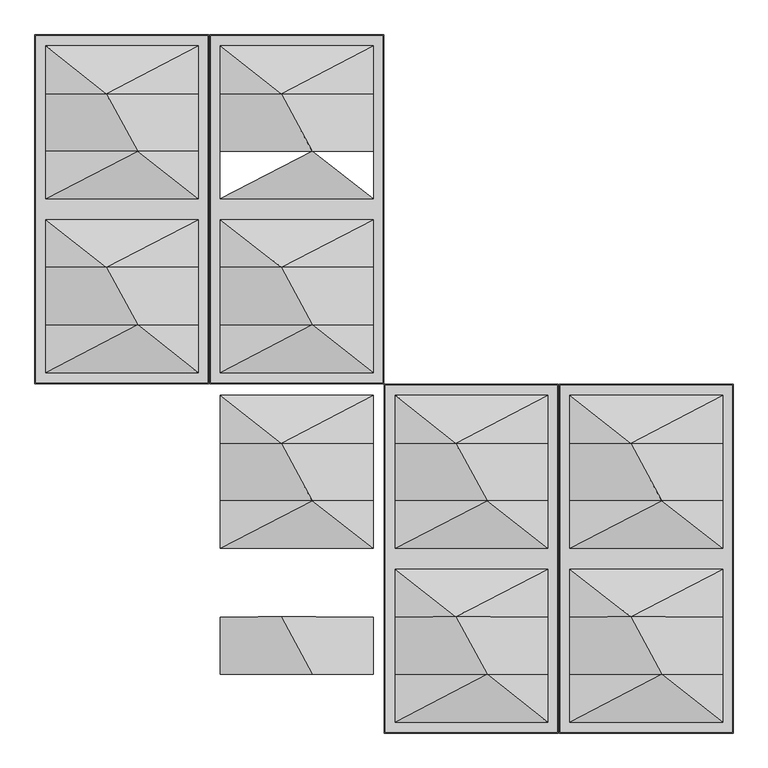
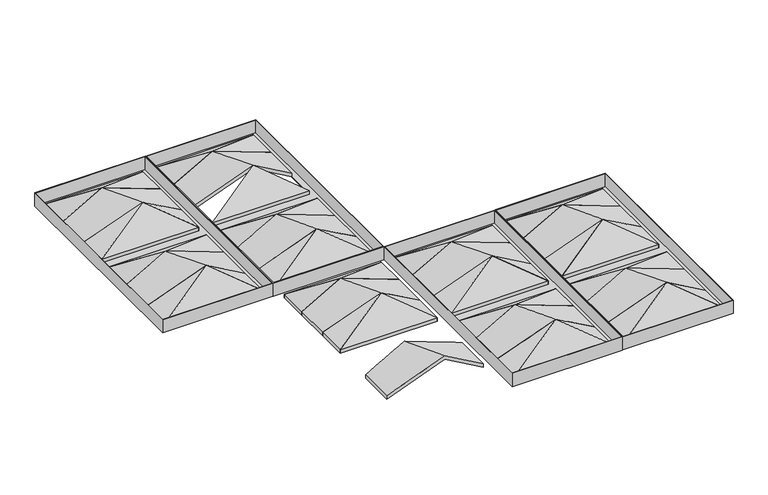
"""IFC4 building model written with IfcOpenShell, lengths in millimetres: proxy geometry, Maxxit_Highland-Ceiling_rev-01 : Maxxit_Highland-Ceiling_Duo."""

from ifc_helpers import new_model, si_unit, frame, origin, place, context, project, spatial, faceted_brep, source, transform, mapped, element, save
from ifc_brep_helpers import plane_surface, spline_surface, advanced_brep


def generic_models_1ff93ce6(model_context):
    return source(origin(), model_context, "Body", "SolidModel", [
        faceted_brep([(489.2062531, 1109.6625153, -0.9528165), (755.90625, 1109.6625153, -0.9528165), (649.8655039, 1192.9263925, 58.6660323), (755.90625, 1109.6625153, -11.1125), (489.2062531, 1109.6625153, -11.1125), (649.8479879, 1192.9487231, 48.522338)], [[[0, 1, 2]], [[3, 4, 5]], [[1, 0, 4, 3]], [[5, 2, 1, 3]], [[2, 5, 4, 0]]]),
        faceted_brep([(489.2062531, 1376.3297521, -0.9528165), (755.90625, 1376.3297521, -0.9528165), (755.8430731, 1376.3297521, -11.1125), (489.2062531, 1376.3297521, -11.1125), (595.2710937, 1293.0658749, 48.5063488), (595.2710937, 1293.0658749, 58.6660323)], [[[0, 1, 2, 3]], [[3, 2, 4]], [[1, 0, 5]], [[5, 4, 2, 1]], [[4, 5, 0, 3]]]),
        advanced_brep(
        [(755.90625, 889.713865, -0.9528165), (649.8655039, 889.713865, 58.6660323), (489.2062531, 889.713865, -0.9528165), (489.2062531, 889.713865, -11.1125), (649.8655039, 889.713865, 48.5063488), (755.90625, 889.713865, -11.1125), (755.90625, 989.8533474, -0.9528165), (755.90625, 989.8533474, -11.1125), (595.2710937, 989.8533474, 48.4974075), (489.2062531, 989.8533474, -11.1125), (489.2062531, 989.8533474, -0.9528165), (595.2710937, 989.8533474, 58.6570911)],
        [
            (0, 1),
            (1, 2),
            (2, 3),
            (3, 4),
            (4, 5),
            (5, 0),
            (6, 7),
            (7, 8),
            (8, 9),
            (9, 10),
            (10, 11),
            (11, 6),
            (6, 0),
            (5, 7),
            (4, 8),
            (3, 9),
            (2, 10),
            (1, 11),
        ],
        [
            plane_surface(frame((631.6593357, 889.713865, 13.8402914), z_axis=(0.0, -1.0000000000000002, 0.0), x_axis=(0.8716776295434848, 0.0, -0.4900796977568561))),
            plane_surface(frame((613.4611989, 989.8533474, 13.8373109), z_axis=(0.0, 1.0000000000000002, 0.0), x_axis=(0.8716776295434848, 0.0, -0.4900796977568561))),
            plane_surface(frame((755.90625, 989.8533474, -6.0326582), z_axis=(1.0, 0.0, 0.0), x_axis=(0.0, 0.0, 1.0))),
            spline_surface(1, 1, [[(595.2710937, 989.8533474, 48.4974075), (649.8655039, 889.713865, 48.5063488)], [(755.90625, 989.8533474, -11.1125), (755.90625, 889.713865, -11.1125)]], [2, 2], [2, 2], [0.0, 1.0], [0.0, 1.0]),
            spline_surface(1, 1, [[(489.2062531, 989.8533474, -11.1125), (489.2062531, 889.713865, -11.1125)], [(595.2710937, 989.8533474, 48.4974075), (649.8655039, 889.713865, 48.5063488)]], [2, 2], [2, 2], [0.0, 1.0], [0.0, 1.0]),
            plane_surface(frame((489.2062531, 989.8533474, -6.0326582), z_axis=(-1.0, 0.0, 0.0), x_axis=(0.0, 0.0, -1.0))),
            spline_surface(1, 1, [[(595.2710937, 989.8533474, 58.6570911), (649.8655039, 889.713865, 58.6660323)], [(489.2062531, 989.8533474, -0.9528165), (489.2062531, 889.713865, -0.9528165)]], [2, 2], [2, 2], [0.0, 1.0], [0.0, 1.0]),
            spline_surface(1, 1, [[(755.90625, 989.8533474, -0.9528165), (755.90625, 889.713865, -0.9528165)], [(595.2710937, 989.8533474, 58.6570911), (649.8655039, 889.713865, 58.6660323)]], [2, 2], [2, 2], [0.0, 1.0], [0.0, 1.0]),
        ],
        [
            (0, [[1, 2, 3, 4, 5, 6]]),
            (1, [[7, 8, 9, 10, 11, 12]]),
            (2, [[-7, 13, -6, 14]]),
            (3, [[-8, -14, -5, 15]]),
            (4, [[-9, -15, -4, 16]]),
            (5, [[-10, -16, -3, 17]]),
            (6, [[-11, -17, -2, 18]]),
            (7, [[-12, -18, -1, -13]]),
        ],
    ),
        faceted_brep([(755.90625, 1293.0658749, -11.1125), (755.90625, 1293.0658749, -0.9528165), (595.2710937, 1293.0658749, 58.6570911), (489.2062531, 1293.0658749, -0.9528165), (489.2062531, 1293.0658749, -11.1125), (595.2710937, 1293.0658749, 48.4974075), (755.90625, 1376.3625122, -0.9528165), (755.90625, 1376.3625122, -11.1125), (489.2062531, 1376.3625122, -11.1125), (489.2062531, 1376.3625122, -0.9528165)], [[[0, 1, 2, 3, 4, 5]], [[2, 1, 6]], [[1, 0, 7, 6]], [[0, 5, 7]], [[5, 4, 8]], [[4, 3, 9, 8]], [[3, 2, 9]], [[5, 2, 6, 7]], [[2, 5, 8, 9]]]),
        advanced_brep(
        [(755.90625, 1192.9263925, -0.9528165), (649.8655039, 1192.9263925, 58.6660323), (489.2062531, 1192.9263925, -0.9528165), (489.2062531, 1192.9263925, -11.1125), (649.8655039, 1192.9263925, 48.5063488), (755.90625, 1192.9263925, -11.1125), (755.90625, 1293.0658749, -0.9528165), (755.90625, 1293.0658749, -11.1125), (595.2710937, 1293.0658749, 48.4974075), (489.2062531, 1293.0658749, -11.1125), (489.2062531, 1293.0658749, -0.9528165), (595.2710937, 1293.0658749, 58.6570911)],
        [
            (0, 1),
            (1, 2),
            (2, 3),
            (3, 4),
            (4, 5),
            (5, 0),
            (6, 7),
            (7, 8),
            (8, 9),
            (9, 10),
            (10, 11),
            (11, 6),
            (6, 0),
            (5, 7),
            (4, 8),
            (3, 9),
            (2, 10),
            (1, 11),
        ],
        [
            plane_surface(frame((631.6593357, 1192.9263925, 13.8402914), z_axis=(0.0, -1.0000000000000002, 0.0), x_axis=(0.8716776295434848, 0.0, -0.4900796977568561))),
            plane_surface(frame((613.4611989, 1293.0658749, 13.8373109), z_axis=(0.0, 1.0000000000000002, 0.0), x_axis=(0.8716776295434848, 0.0, -0.4900796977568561))),
            plane_surface(frame((755.90625, 1293.0658749, -6.0326582), z_axis=(1.0, 0.0, 0.0), x_axis=(0.0, 0.0, 1.0))),
            spline_surface(1, 1, [[(595.2710937, 1293.0658749, 48.4974075), (649.8655039, 1192.9263925, 48.5063488)], [(755.90625, 1293.0658749, -11.1125), (755.90625, 1192.9263925, -11.1125)]], [2, 2], [2, 2], [0.0, 1.0], [0.0, 1.0]),
            spline_surface(1, 1, [[(489.2062531, 1293.0658749, -11.1125), (489.2062531, 1192.9263925, -11.1125)], [(595.2710937, 1293.0658749, 48.4974075), (649.8655039, 1192.9263925, 48.5063488)]], [2, 2], [2, 2], [0.0, 1.0], [0.0, 1.0]),
            plane_surface(frame((489.2062531, 1293.0658749, -6.0326582), z_axis=(-1.0, 0.0, 0.0), x_axis=(0.0, 0.0, -1.0))),
            spline_surface(1, 1, [[(595.2710937, 1293.0658749, 58.6570911), (649.8655039, 1192.9263925, 58.6660323)], [(489.2062531, 1293.0658749, -0.9528165), (489.2062531, 1192.9263925, -0.9528165)]], [2, 2], [2, 2], [0.0, 1.0], [0.0, 1.0]),
            spline_surface(1, 1, [[(755.90625, 1293.0658749, -0.9528165), (755.90625, 1192.9263925, -0.9528165)], [(595.2710937, 1293.0658749, 58.6570911), (649.8655039, 1192.9263925, 58.6660323)]], [2, 2], [2, 2], [0.0, 1.0], [0.0, 1.0]),
        ],
        [
            (0, [[1, 2, 3, 4, 5, 6]]),
            (1, [[7, 8, 9, 10, 11, 12]]),
            (2, [[-7, 13, -6, 14]]),
            (3, [[-8, -14, -5, 15]]),
            (4, [[-9, -15, -4, 16]]),
            (5, [[-10, -16, -3, 17]]),
            (6, [[-11, -17, -2, 18]]),
            (7, [[-12, -18, -1, -13]]),
        ],
    ),
        faceted_brep([(489.2062531, 806.4499878, -0.9528165), (755.90625, 806.4499878, -0.9528165), (649.8655039, 889.713865, 58.6660323), (755.90625, 806.4499878, -11.1125), (489.2062531, 806.4499878, -11.1125), (649.8479879, 889.7361956, 48.522338)], [[[0, 1, 2]], [[3, 4, 5]], [[1, 0, 4, 3]], [[5, 2, 1, 3]], [[2, 5, 4, 0]]]),
        faceted_brep([(489.2062531, 1073.1172247, -0.9528165), (755.90625, 1073.1172247, -0.9528165), (755.8430731, 1073.1172247, -11.1125), (489.2062531, 1073.1172247, -11.1125), (595.2710937, 989.8533474, 48.5063488), (595.2710937, 989.8533474, 58.6660323)], [[[0, 1, 2, 3]], [[3, 2, 4]], [[1, 0, 5]], [[5, 4, 2, 1]], [[4, 5, 0, 3]]]),
        faceted_brep([(755.90625, 889.713865, -11.1125), (649.8655039, 889.713865, 48.5063488), (489.2062531, 889.713865, -11.1125), (489.2062531, 889.713865, -0.9528165), (649.8655039, 889.713865, 58.6660323), (755.90625, 889.713865, -0.9528165), (755.90625, 806.4499878, -0.9528165), (755.90625, 806.4499878, -11.1125), (489.2113555, 806.4387928, -11.1106065), (489.2062531, 806.436147, -0.9528165)], [[[0, 1, 2, 3, 4, 5]], [[5, 4, 6]], [[0, 5, 6, 7]], [[1, 0, 7]], [[2, 1, 8]], [[3, 2, 8, 9]], [[4, 3, 9]], [[1, 4, 9, 8]], [[4, 1, 7, 6]]]),
        faceted_brep([(755.90625, 989.8533474, -11.1125), (755.90625, 989.8533474, -0.9528165), (595.2710937, 989.8533474, 58.6570911), (489.2062531, 989.8533474, -0.9528165), (489.2062531, 989.8533474, -11.1125), (595.2710937, 989.8533474, 48.4974075), (755.90625, 1073.1499847, -0.9528165), (755.90625, 1073.1499847, -11.1125), (489.2062531, 1073.1499847, -11.1125), (489.2062531, 1073.1499847, -0.9528165)], [[[0, 1, 2, 3, 4, 5]], [[2, 1, 6]], [[1, 0, 7, 6]], [[0, 5, 7]], [[5, 4, 8]], [[4, 3, 9, 8]], [[3, 2, 9]], [[5, 2, 6, 7]], [[2, 5, 8, 9]]]),
        faceted_brep([(470.69375, 1395.4125, 25.4), (773.90625, 1395.4125, 25.4), (773.90625, 1395.4125, -12.7), (470.69375, 1395.4125, -12.7), (755.90625, 1073.1499847, -12.7), (755.90625, 806.4499878, -12.7), (755.90625, 806.4499878, -11.1125), (755.90625, 1073.1499847, -11.1125), (489.2062531, 806.4499878, -12.7), (489.2062531, 806.4499878, -11.1125), (772.31875, 788.9875, -11.1125), (472.28125, 788.9875, -11.1125), (472.28125, 788.9875, 25.4), (772.31875, 788.9875, 25.4), (772.31875, 1393.825, -11.1125), (772.31875, 1393.825, 25.4), (470.69375, 787.4, 25.4), (773.90625, 787.4, 25.4), (472.28125, 1393.825, 25.4), (470.69375, 787.4, -12.7), (773.90625, 787.4, -12.7), (489.2062531, 1073.1499847, -12.7), (489.2062531, 1376.3625122, -12.7), (489.2062531, 1109.6625153, -12.7), (755.90625, 1109.6625153, -12.7), (755.90625, 1376.3625122, -12.7), (489.2062531, 1073.1499847, -11.1125), (472.28125, 1393.825, -11.1125), (489.2062531, 1376.3625122, -11.1125), (755.90625, 1376.3625122, -11.1125), (755.90625, 1109.6625153, -11.1125), (489.2062531, 1109.6625153, -11.1125)], [[[0, 1, 2, 3]], [[4, 5, 6, 7]], [[5, 8, 9, 6]], [[10, 11, 12, 13]], [[14, 10, 13, 15]], [[16, 17, 1, 0], [13, 12, 18, 15]], [[19, 3, 2, 20], [8, 5, 4, 21], [22, 23, 24, 25]], [[17, 16, 19, 20]], [[1, 17, 20, 2]], [[16, 0, 3, 19]], [[8, 21, 26, 9]], [[21, 4, 7, 26]], [[11, 10, 14, 27], [7, 6, 9, 26], [28, 29, 30, 31]], [[27, 14, 15, 18]], [[11, 27, 18, 12]], [[22, 25, 29, 28]], [[25, 24, 30, 29]], [[24, 23, 31, 30]], [[23, 22, 28, 31]]]),
        faceted_brep([(451.10625, 1192.9263925, -11.1125), (345.0655039, 1192.9263925, 48.5063488), (184.4062531, 1192.9263925, -11.1125), (184.4062531, 1192.9263925, -0.9528165), (345.0655039, 1192.9263925, 58.6660323), (451.10625, 1192.9263925, -0.9528165), (451.10625, 1109.6625153, -0.9528165), (451.10625, 1109.6625153, -11.1125), (184.4113555, 1109.6513203, -11.1106065), (184.4062531, 1109.6486744, -0.9528165)], [[[0, 1, 2, 3, 4, 5]], [[5, 4, 6]], [[0, 5, 6, 7]], [[1, 0, 7]], [[2, 1, 8]], [[3, 2, 8, 9]], [[4, 3, 9]], [[1, 4, 9, 8]], [[4, 1, 7, 6]]]),
        faceted_brep([(184.4062531, 1109.6625153, -0.9528165), (451.10625, 1109.6625153, -0.9528165), (345.0655039, 1192.9263925, 58.6660323), (451.10625, 1109.6625153, -11.1125), (184.4062531, 1109.6625153, -11.1125), (345.0479879, 1192.9487231, 48.522338)], [[[0, 1, 2]], [[3, 4, 5]], [[1, 0, 4, 3]], [[5, 2, 1, 3]], [[2, 5, 4, 0]]]),
        faceted_brep([(184.4062531, 1376.3297521, -0.9528165), (451.10625, 1376.3297521, -0.9528165), (451.0430731, 1376.3297521, -11.1125), (184.4062531, 1376.3297521, -11.1125), (290.4710937, 1293.0658749, 48.5063488), (290.4710937, 1293.0658749, 58.6660323)], [[[0, 1, 2, 3]], [[3, 2, 4]], [[1, 0, 5]], [[5, 4, 2, 1]], [[4, 5, 0, 3]]]),
        advanced_brep(
        [(451.10625, 889.713865, -0.9528165), (345.0655039, 889.713865, 58.6660323), (184.4062531, 889.713865, -0.9528165), (184.4062531, 889.713865, -11.1125), (345.0655039, 889.713865, 48.5063488), (451.10625, 889.713865, -11.1125), (451.10625, 989.8533474, -0.9528165), (451.10625, 989.8533474, -11.1125), (290.4710937, 989.8533474, 48.4974075), (184.4062531, 989.8533474, -11.1125), (184.4062531, 989.8533474, -0.9528165), (290.4710937, 989.8533474, 58.6570911)],
        [
            (0, 1),
            (1, 2),
            (2, 3),
            (3, 4),
            (4, 5),
            (5, 0),
            (6, 7),
            (7, 8),
            (8, 9),
            (9, 10),
            (10, 11),
            (11, 6),
            (6, 0),
            (5, 7),
            (4, 8),
            (3, 9),
            (2, 10),
            (1, 11),
        ],
        [
            plane_surface(frame((326.8593357, 889.713865, 13.8402914), z_axis=(0.0, -1.0000000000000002, 0.0), x_axis=(0.8716776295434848, 0.0, -0.4900796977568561))),
            plane_surface(frame((308.6611989, 989.8533474, 13.8373109), z_axis=(0.0, 1.0000000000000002, 0.0), x_axis=(0.8716776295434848, 0.0, -0.4900796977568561))),
            plane_surface(frame((451.10625, 989.8533474, -6.0326582), z_axis=(1.0, 0.0, 0.0), x_axis=(0.0, 0.0, 1.0))),
            spline_surface(1, 1, [[(290.4710937, 989.8533474, 48.4974075), (345.0655039, 889.713865, 48.5063488)], [(451.10625, 989.8533474, -11.1125), (451.10625, 889.713865, -11.1125)]], [2, 2], [2, 2], [0.0, 1.0], [0.0, 1.0]),
            spline_surface(1, 1, [[(184.4062531, 989.8533474, -11.1125), (184.4062531, 889.713865, -11.1125)], [(290.4710937, 989.8533474, 48.4974075), (345.0655039, 889.713865, 48.5063488)]], [2, 2], [2, 2], [0.0, 1.0], [0.0, 1.0]),
            plane_surface(frame((184.4062531, 989.8533474, -6.0326582), z_axis=(-1.0, 0.0, 0.0), x_axis=(0.0, 0.0, -1.0))),
            spline_surface(1, 1, [[(290.4710937, 989.8533474, 58.6570911), (345.0655039, 889.713865, 58.6660323)], [(184.4062531, 989.8533474, -0.9528165), (184.4062531, 889.713865, -0.9528165)]], [2, 2], [2, 2], [0.0, 1.0], [0.0, 1.0]),
            spline_surface(1, 1, [[(451.10625, 989.8533474, -0.9528165), (451.10625, 889.713865, -0.9528165)], [(290.4710937, 989.8533474, 58.6570911), (345.0655039, 889.713865, 58.6660323)]], [2, 2], [2, 2], [0.0, 1.0], [0.0, 1.0]),
        ],
        [
            (0, [[1, 2, 3, 4, 5, 6]]),
            (1, [[7, 8, 9, 10, 11, 12]]),
            (2, [[-7, 13, -6, 14]]),
            (3, [[-8, -14, -5, 15]]),
            (4, [[-9, -15, -4, 16]]),
            (5, [[-10, -16, -3, 17]]),
            (6, [[-11, -17, -2, 18]]),
            (7, [[-12, -18, -1, -13]]),
        ],
    ),
        faceted_brep([(451.10625, 1293.0658749, -11.1125), (451.10625, 1293.0658749, -0.9528165), (290.4710937, 1293.0658749, 58.6570911), (184.4062531, 1293.0658749, -0.9528165), (184.4062531, 1293.0658749, -11.1125), (290.4710937, 1293.0658749, 48.4974075), (451.10625, 1376.3625122, -0.9528165), (451.10625, 1376.3625122, -11.1125), (184.4062531, 1376.3625122, -11.1125), (184.4062531, 1376.3625122, -0.9528165)], [[[0, 1, 2, 3, 4, 5]], [[2, 1, 6]], [[1, 0, 7, 6]], [[0, 5, 7]], [[5, 4, 8]], [[4, 3, 9, 8]], [[3, 2, 9]], [[5, 2, 6, 7]], [[2, 5, 8, 9]]]),
        advanced_brep(
        [(451.10625, 1192.9263925, -0.9528165), (345.0655039, 1192.9263925, 58.6660323), (184.4062531, 1192.9263925, -0.9528165), (184.4062531, 1192.9263925, -11.1125), (345.0655039, 1192.9263925, 48.5063488), (451.10625, 1192.9263925, -11.1125), (451.10625, 1293.0658749, -0.9528165), (451.10625, 1293.0658749, -11.1125), (290.4710937, 1293.0658749, 48.4974075), (184.4062531, 1293.0658749, -11.1125), (184.4062531, 1293.0658749, -0.9528165), (290.4710937, 1293.0658749, 58.6570911)],
        [
            (0, 1),
            (1, 2),
            (2, 3),
            (3, 4),
            (4, 5),
            (5, 0),
            (6, 7),
            (7, 8),
            (8, 9),
            (9, 10),
            (10, 11),
            (11, 6),
            (6, 0),
            (5, 7),
            (4, 8),
            (3, 9),
            (2, 10),
            (1, 11),
        ],
        [
            plane_surface(frame((326.8593357, 1192.9263925, 13.8402914), z_axis=(0.0, -1.0000000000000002, 0.0), x_axis=(0.8716776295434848, 0.0, -0.4900796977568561))),
            plane_surface(frame((308.6611989, 1293.0658749, 13.8373109), z_axis=(0.0, 1.0000000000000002, 0.0), x_axis=(0.8716776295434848, 0.0, -0.4900796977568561))),
            plane_surface(frame((451.10625, 1293.0658749, -6.0326582), z_axis=(1.0, 0.0, 0.0), x_axis=(0.0, 0.0, 1.0))),
            spline_surface(1, 1, [[(290.4710937, 1293.0658749, 48.4974075), (345.0655039, 1192.9263925, 48.5063488)], [(451.10625, 1293.0658749, -11.1125), (451.10625, 1192.9263925, -11.1125)]], [2, 2], [2, 2], [0.0, 1.0], [0.0, 1.0]),
            spline_surface(1, 1, [[(184.4062531, 1293.0658749, -11.1125), (184.4062531, 1192.9263925, -11.1125)], [(290.4710937, 1293.0658749, 48.4974075), (345.0655039, 1192.9263925, 48.5063488)]], [2, 2], [2, 2], [0.0, 1.0], [0.0, 1.0]),
            plane_surface(frame((184.4062531, 1293.0658749, -6.0326582), z_axis=(-1.0, 0.0, 0.0), x_axis=(0.0, 0.0, -1.0))),
            spline_surface(1, 1, [[(290.4710937, 1293.0658749, 58.6570911), (345.0655039, 1192.9263925, 58.6660323)], [(184.4062531, 1293.0658749, -0.9528165), (184.4062531, 1192.9263925, -0.9528165)]], [2, 2], [2, 2], [0.0, 1.0], [0.0, 1.0]),
            spline_surface(1, 1, [[(451.10625, 1293.0658749, -0.9528165), (451.10625, 1192.9263925, -0.9528165)], [(290.4710937, 1293.0658749, 58.6570911), (345.0655039, 1192.9263925, 58.6660323)]], [2, 2], [2, 2], [0.0, 1.0], [0.0, 1.0]),
        ],
        [
            (0, [[1, 2, 3, 4, 5, 6]]),
            (1, [[7, 8, 9, 10, 11, 12]]),
            (2, [[-7, 13, -6, 14]]),
            (3, [[-8, -14, -5, 15]]),
            (4, [[-9, -15, -4, 16]]),
            (5, [[-10, -16, -3, 17]]),
            (6, [[-11, -17, -2, 18]]),
            (7, [[-12, -18, -1, -13]]),
        ],
    ),
        faceted_brep([(184.4062531, 806.4499878, -0.9528165), (451.10625, 806.4499878, -0.9528165), (345.0655039, 889.713865, 58.6660323), (451.10625, 806.4499878, -11.1125), (184.4062531, 806.4499878, -11.1125), (345.0479879, 889.7361956, 48.522338)], [[[0, 1, 2]], [[3, 4, 5]], [[1, 0, 4, 3]], [[5, 2, 1, 3]], [[2, 5, 4, 0]]]),
        faceted_brep([(184.4062531, 1073.1172247, -0.9528165), (451.10625, 1073.1172247, -0.9528165), (451.0430731, 1073.1172247, -11.1125), (184.4062531, 1073.1172247, -11.1125), (290.4710937, 989.8533474, 48.5063488), (290.4710937, 989.8533474, 58.6660323)], [[[0, 1, 2, 3]], [[3, 2, 4]], [[1, 0, 5]], [[5, 4, 2, 1]], [[4, 5, 0, 3]]]),
        faceted_brep([(451.10625, 889.713865, -11.1125), (345.0655039, 889.713865, 48.5063488), (184.4062531, 889.713865, -11.1125), (184.4062531, 889.713865, -0.9528165), (345.0655039, 889.713865, 58.6660323), (451.10625, 889.713865, -0.9528165), (451.10625, 806.4499878, -0.9528165), (451.10625, 806.4499878, -11.1125), (184.4113555, 806.4387928, -11.1106065), (184.4062531, 806.436147, -0.9528165)], [[[0, 1, 2, 3, 4, 5]], [[5, 4, 6]], [[0, 5, 6, 7]], [[1, 0, 7]], [[2, 1, 8]], [[3, 2, 8, 9]], [[4, 3, 9]], [[1, 4, 9, 8]], [[4, 1, 7, 6]]]),
        faceted_brep([(451.10625, 989.8533474, -11.1125), (451.10625, 989.8533474, -0.9528165), (290.4710937, 989.8533474, 58.6570911), (184.4062531, 989.8533474, -0.9528165), (184.4062531, 989.8533474, -11.1125), (290.4710937, 989.8533474, 48.4974075), (451.10625, 1073.1499847, -0.9528165), (451.10625, 1073.1499847, -11.1125), (184.4062531, 1073.1499847, -11.1125), (184.4062531, 1073.1499847, -0.9528165)], [[[0, 1, 2, 3, 4, 5]], [[2, 1, 6]], [[1, 0, 7, 6]], [[0, 5, 7]], [[5, 4, 8]], [[4, 3, 9, 8]], [[3, 2, 9]], [[5, 2, 6, 7]], [[2, 5, 8, 9]]]),
        faceted_brep([(165.89375, 1395.4125, 25.4), (469.10625, 1395.4125, 25.4), (469.10625, 1395.4125, -12.7), (165.89375, 1395.4125, -12.7), (451.10625, 1073.1499847, -12.7), (451.10625, 806.4499878, -12.7), (451.10625, 806.4499878, -11.1125), (451.10625, 1073.1499847, -11.1125), (184.4062531, 806.4499878, -12.7), (184.4062531, 806.4499878, -11.1125), (467.51875, 788.9875, -11.1125), (167.48125, 788.9875, -11.1125), (167.48125, 788.9875, 25.4), (467.51875, 788.9875, 25.4), (467.51875, 1393.825, -11.1125), (467.51875, 1393.825, 25.4), (165.89375, 787.4, 25.4), (469.10625, 787.4, 25.4), (167.48125, 1393.825, 25.4), (165.89375, 787.4, -12.7), (469.10625, 787.4, -12.7), (184.4062531, 1073.1499847, -12.7), (184.4062531, 1376.3625122, -12.7), (184.4062531, 1109.6625153, -12.7), (451.10625, 1109.6625153, -12.7), (451.10625, 1376.3625122, -12.7), (184.4062531, 1073.1499847, -11.1125), (167.48125, 1393.825, -11.1125), (184.4062531, 1376.3625122, -11.1125), (451.10625, 1376.3625122, -11.1125), (451.10625, 1109.6625153, -11.1125), (184.4062531, 1109.6625153, -11.1125)], [[[0, 1, 2, 3]], [[4, 5, 6, 7]], [[5, 8, 9, 6]], [[10, 11, 12, 13]], [[14, 10, 13, 15]], [[16, 17, 1, 0], [13, 12, 18, 15]], [[19, 3, 2, 20], [8, 5, 4, 21], [22, 23, 24, 25]], [[17, 16, 19, 20]], [[1, 17, 20, 2]], [[16, 0, 3, 19]], [[8, 21, 26, 9]], [[21, 4, 7, 26]], [[11, 10, 14, 27], [7, 6, 9, 26], [28, 29, 30, 31]], [[27, 14, 15, 18]], [[11, 27, 18, 12]], [[22, 25, 29, 28]], [[25, 24, 30, 29]], [[24, 23, 31, 30]], [[23, 22, 28, 31]]]),
        faceted_brep([(1365.50625, 583.3263925, -11.1125), (1259.4655039, 583.3263925, 48.5063488), (1098.8062531, 583.3263925, -11.1125), (1098.8062531, 583.3263925, -0.9528165), (1259.4655039, 583.3263925, 58.6660323), (1365.50625, 583.3263925, -0.9528165), (1365.50625, 500.0625153, -0.9528165), (1365.50625, 500.0625153, -11.1125), (1098.8113555, 500.0513203, -11.1106065), (1098.8062531, 500.0486744, -0.9528165)], [[[0, 1, 2, 3, 4, 5]], [[5, 4, 6]], [[0, 5, 6, 7]], [[1, 0, 7]], [[2, 1, 8]], [[3, 2, 8, 9]], [[4, 3, 9]], [[1, 4, 9, 8]], [[4, 1, 7, 6]]]),
        faceted_brep([(1098.8062531, 500.0625153, -0.9528165), (1365.50625, 500.0625153, -0.9528165), (1259.4655039, 583.3263925, 58.6660323), (1365.50625, 500.0625153, -11.1125), (1098.8062531, 500.0625153, -11.1125), (1259.4479879, 583.3487231, 48.522338)], [[[0, 1, 2]], [[3, 4, 5]], [[1, 0, 4, 3]], [[5, 2, 1, 3]], [[2, 5, 4, 0]]]),
        faceted_brep([(1098.8062531, 766.7297521, -0.9528165), (1365.50625, 766.7297521, -0.9528165), (1365.4430731, 766.7297521, -11.1125), (1098.8062531, 766.7297521, -11.1125), (1204.8710937, 683.4658749, 48.5063488), (1204.8710937, 683.4658749, 58.6660323)], [[[0, 1, 2, 3]], [[3, 2, 4]], [[1, 0, 5]], [[5, 4, 2, 1]], [[4, 5, 0, 3]]]),
        advanced_brep(
        [(1365.50625, 280.113865, -0.9528165), (1259.4655039, 280.113865, 58.6660323), (1098.8062531, 280.113865, -0.9528165), (1098.8062531, 280.113865, -11.1125), (1259.4655039, 280.113865, 48.5063488), (1365.50625, 280.113865, -11.1125), (1365.50625, 380.2533474, -0.9528165), (1365.50625, 380.2533474, -11.1125), (1204.8710937, 380.2533474, 48.4974075), (1098.8062531, 380.2533474, -11.1125), (1098.8062531, 380.2533474, -0.9528165), (1204.8710937, 380.2533474, 58.6570911)],
        [
            (0, 1),
            (1, 2),
            (2, 3),
            (3, 4),
            (4, 5),
            (5, 0),
            (6, 7),
            (7, 8),
            (8, 9),
            (9, 10),
            (10, 11),
            (11, 6),
            (6, 0),
            (5, 7),
            (4, 8),
            (3, 9),
            (2, 10),
            (1, 11),
        ],
        [
            plane_surface(frame((1241.2593357, 280.113865, 13.8402914), z_axis=(0.0, -1.0000000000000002, 0.0), x_axis=(0.8716776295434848, 0.0, -0.4900796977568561))),
            plane_surface(frame((1223.0611989, 380.2533474, 13.8373109), z_axis=(0.0, 1.0000000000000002, 0.0), x_axis=(0.8716776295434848, 0.0, -0.4900796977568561))),
            plane_surface(frame((1365.50625, 380.2533474, -6.0326582), z_axis=(1.0, 0.0, 0.0), x_axis=(0.0, 0.0, 1.0))),
            spline_surface(1, 1, [[(1204.8710937, 380.2533474, 48.4974075), (1259.4655039, 280.113865, 48.5063488)], [(1365.50625, 380.2533474, -11.1125), (1365.50625, 280.113865, -11.1125)]], [2, 2], [2, 2], [0.0, 1.0], [0.0, 1.0]),
            spline_surface(1, 1, [[(1098.8062531, 380.2533474, -11.1125), (1098.8062531, 280.113865, -11.1125)], [(1204.8710937, 380.2533474, 48.4974075), (1259.4655039, 280.113865, 48.5063488)]], [2, 2], [2, 2], [0.0, 1.0], [0.0, 1.0]),
            plane_surface(frame((1098.8062531, 380.2533474, -6.0326582), z_axis=(-1.0, 0.0, 0.0), x_axis=(0.0, 0.0, -1.0))),
            spline_surface(1, 1, [[(1204.8710937, 380.2533474, 58.6570911), (1259.4655039, 280.113865, 58.6660323)], [(1098.8062531, 380.2533474, -0.9528165), (1098.8062531, 280.113865, -0.9528165)]], [2, 2], [2, 2], [0.0, 1.0], [0.0, 1.0]),
            spline_surface(1, 1, [[(1365.50625, 380.2533474, -0.9528165), (1365.50625, 280.113865, -0.9528165)], [(1204.8710937, 380.2533474, 58.6570911), (1259.4655039, 280.113865, 58.6660323)]], [2, 2], [2, 2], [0.0, 1.0], [0.0, 1.0]),
        ],
        [
            (0, [[1, 2, 3, 4, 5, 6]]),
            (1, [[7, 8, 9, 10, 11, 12]]),
            (2, [[-7, 13, -6, 14]]),
            (3, [[-8, -14, -5, 15]]),
            (4, [[-9, -15, -4, 16]]),
            (5, [[-10, -16, -3, 17]]),
            (6, [[-11, -17, -2, 18]]),
            (7, [[-12, -18, -1, -13]]),
        ],
    ),
        faceted_brep([(1365.50625, 683.4658749, -11.1125), (1365.50625, 683.4658749, -0.9528165), (1204.8710937, 683.4658749, 58.6570911), (1098.8062531, 683.4658749, -0.9528165), (1098.8062531, 683.4658749, -11.1125), (1204.8710937, 683.4658749, 48.4974075), (1365.50625, 766.7625122, -0.9528165), (1365.50625, 766.7625122, -11.1125), (1098.8062531, 766.7625122, -11.1125), (1098.8062531, 766.7625122, -0.9528165)], [[[0, 1, 2, 3, 4, 5]], [[2, 1, 6]], [[1, 0, 7, 6]], [[0, 5, 7]], [[5, 4, 8]], [[4, 3, 9, 8]], [[3, 2, 9]], [[5, 2, 6, 7]], [[2, 5, 8, 9]]]),
        advanced_brep(
        [(1365.50625, 583.3263925, -0.9528165), (1259.4655039, 583.3263925, 58.6660323), (1098.8062531, 583.3263925, -0.9528165), (1098.8062531, 583.3263925, -11.1125), (1259.4655039, 583.3263925, 48.5063488), (1365.50625, 583.3263925, -11.1125), (1365.50625, 683.4658749, -0.9528165), (1365.50625, 683.4658749, -11.1125), (1204.8710937, 683.4658749, 48.4974075), (1098.8062531, 683.4658749, -11.1125), (1098.8062531, 683.4658749, -0.9528165), (1204.8710937, 683.4658749, 58.6570911)],
        [
            (0, 1),
            (1, 2),
            (2, 3),
            (3, 4),
            (4, 5),
            (5, 0),
            (6, 7),
            (7, 8),
            (8, 9),
            (9, 10),
            (10, 11),
            (11, 6),
            (6, 0),
            (5, 7),
            (4, 8),
            (3, 9),
            (2, 10),
            (1, 11),
        ],
        [
            plane_surface(frame((1241.2593357, 583.3263925, 13.8402914), z_axis=(0.0, -1.0000000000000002, 0.0), x_axis=(0.8716776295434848, 0.0, -0.4900796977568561))),
            plane_surface(frame((1223.0611989, 683.4658749, 13.8373109), z_axis=(0.0, 1.0000000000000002, 0.0), x_axis=(0.8716776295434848, 0.0, -0.4900796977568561))),
            plane_surface(frame((1365.50625, 683.4658749, -6.0326582), z_axis=(1.0, 0.0, 0.0), x_axis=(0.0, 0.0, 1.0))),
            spline_surface(1, 1, [[(1204.8710937, 683.4658749, 48.4974075), (1259.4655039, 583.3263925, 48.5063488)], [(1365.50625, 683.4658749, -11.1125), (1365.50625, 583.3263925, -11.1125)]], [2, 2], [2, 2], [0.0, 1.0], [0.0, 1.0]),
            spline_surface(1, 1, [[(1098.8062531, 683.4658749, -11.1125), (1098.8062531, 583.3263925, -11.1125)], [(1204.8710937, 683.4658749, 48.4974075), (1259.4655039, 583.3263925, 48.5063488)]], [2, 2], [2, 2], [0.0, 1.0], [0.0, 1.0]),
            plane_surface(frame((1098.8062531, 683.4658749, -6.0326582), z_axis=(-1.0, 0.0, 0.0), x_axis=(0.0, 0.0, -1.0))),
            spline_surface(1, 1, [[(1204.8710937, 683.4658749, 58.6570911), (1259.4655039, 583.3263925, 58.6660323)], [(1098.8062531, 683.4658749, -0.9528165), (1098.8062531, 583.3263925, -0.9528165)]], [2, 2], [2, 2], [0.0, 1.0], [0.0, 1.0]),
            spline_surface(1, 1, [[(1365.50625, 683.4658749, -0.9528165), (1365.50625, 583.3263925, -0.9528165)], [(1204.8710937, 683.4658749, 58.6570911), (1259.4655039, 583.3263925, 58.6660323)]], [2, 2], [2, 2], [0.0, 1.0], [0.0, 1.0]),
        ],
        [
            (0, [[1, 2, 3, 4, 5, 6]]),
            (1, [[7, 8, 9, 10, 11, 12]]),
            (2, [[-7, 13, -6, 14]]),
            (3, [[-8, -14, -5, 15]]),
            (4, [[-9, -15, -4, 16]]),
            (5, [[-10, -16, -3, 17]]),
            (6, [[-11, -17, -2, 18]]),
            (7, [[-12, -18, -1, -13]]),
        ],
    ),
        faceted_brep([(1098.8062531, 196.8499878, -0.9528165), (1365.50625, 196.8499878, -0.9528165), (1259.4655039, 280.113865, 58.6660323), (1365.50625, 196.8499878, -11.1125), (1098.8062531, 196.8499878, -11.1125), (1259.4479879, 280.1361956, 48.522338)], [[[0, 1, 2]], [[3, 4, 5]], [[1, 0, 4, 3]], [[5, 2, 1, 3]], [[2, 5, 4, 0]]]),
        faceted_brep([(1098.8062531, 463.5172247, -0.9528165), (1365.50625, 463.5172247, -0.9528165), (1365.4430731, 463.5172247, -11.1125), (1098.8062531, 463.5172247, -11.1125), (1204.8710937, 380.2533474, 48.5063488), (1204.8710937, 380.2533474, 58.6660323)], [[[0, 1, 2, 3]], [[3, 2, 4]], [[1, 0, 5]], [[5, 4, 2, 1]], [[4, 5, 0, 3]]]),
        faceted_brep([(1365.50625, 280.113865, -11.1125), (1259.4655039, 280.113865, 48.5063488), (1098.8062531, 280.113865, -11.1125), (1098.8062531, 280.113865, -0.9528165), (1259.4655039, 280.113865, 58.6660323), (1365.50625, 280.113865, -0.9528165), (1365.50625, 196.8499878, -0.9528165), (1365.50625, 196.8499878, -11.1125), (1098.8113555, 196.8387928, -11.1106065), (1098.8062531, 196.836147, -0.9528165)], [[[0, 1, 2, 3, 4, 5]], [[5, 4, 6]], [[0, 5, 6, 7]], [[1, 0, 7]], [[2, 1, 8]], [[3, 2, 8, 9]], [[4, 3, 9]], [[1, 4, 9, 8]], [[4, 1, 7, 6]]]),
        faceted_brep([(1365.50625, 380.2533474, -11.1125), (1365.50625, 380.2533474, -0.9528165), (1204.8710937, 380.2533474, 58.6570911), (1098.8062531, 380.2533474, -0.9528165), (1098.8062531, 380.2533474, -11.1125), (1204.8710937, 380.2533474, 48.4974075), (1365.50625, 463.5499847, -0.9528165), (1365.50625, 463.5499847, -11.1125), (1098.8062531, 463.5499847, -11.1125), (1098.8062531, 463.5499847, -0.9528165)], [[[0, 1, 2, 3, 4, 5]], [[2, 1, 6]], [[1, 0, 7, 6]], [[0, 5, 7]], [[5, 4, 8]], [[4, 3, 9, 8]], [[3, 2, 9]], [[5, 2, 6, 7]], [[2, 5, 8, 9]]]),
        faceted_brep([(1080.29375, 785.8125, 25.4), (1383.50625, 785.8125, 25.4), (1383.50625, 785.8125, -12.7), (1080.29375, 785.8125, -12.7), (1365.50625, 463.5499847, -12.7), (1365.50625, 196.8499878, -12.7), (1365.50625, 196.8499878, -11.1125), (1365.50625, 463.5499847, -11.1125), (1098.8062531, 196.8499878, -12.7), (1098.8062531, 196.8499878, -11.1125), (1381.91875, 179.3875, -11.1125), (1081.88125, 179.3875, -11.1125), (1081.88125, 179.3875, 25.4), (1381.91875, 179.3875, 25.4), (1381.91875, 784.225, -11.1125), (1381.91875, 784.225, 25.4), (1080.29375, 177.8, 25.4), (1383.50625, 177.8, 25.4), (1081.88125, 784.225, 25.4), (1080.29375, 177.8, -12.7), (1383.50625, 177.8, -12.7), (1098.8062531, 463.5499847, -12.7), (1098.8062531, 766.7625122, -12.7), (1098.8062531, 500.0625153, -12.7), (1365.50625, 500.0625153, -12.7), (1365.50625, 766.7625122, -12.7), (1098.8062531, 463.5499847, -11.1125), (1081.88125, 784.225, -11.1125), (1098.8062531, 766.7625122, -11.1125), (1365.50625, 766.7625122, -11.1125), (1365.50625, 500.0625153, -11.1125), (1098.8062531, 500.0625153, -11.1125)], [[[0, 1, 2, 3]], [[4, 5, 6, 7]], [[5, 8, 9, 6]], [[10, 11, 12, 13]], [[14, 10, 13, 15]], [[16, 17, 1, 0], [13, 12, 18, 15]], [[19, 3, 2, 20], [8, 5, 4, 21], [22, 23, 24, 25]], [[17, 16, 19, 20]], [[1, 17, 20, 2]], [[16, 0, 3, 19]], [[8, 21, 26, 9]], [[21, 4, 7, 26]], [[11, 10, 14, 27], [7, 6, 9, 26], [28, 29, 30, 31]], [[27, 14, 15, 18]], [[11, 27, 18, 12]], [[22, 25, 29, 28]], [[25, 24, 30, 29]], [[24, 23, 31, 30]], [[23, 22, 28, 31]]]),
        faceted_brep([(1060.70625, 583.3263925, -11.1125), (954.6655039, 583.3263925, 48.5063488), (794.0062531, 583.3263925, -11.1125), (794.0062531, 583.3263925, -0.9528165), (954.6655039, 583.3263925, 58.6660323), (1060.70625, 583.3263925, -0.9528165), (1060.70625, 500.0625153, -0.9528165), (1060.70625, 500.0625153, -11.1125), (794.0113555, 500.0513203, -11.1106065), (794.0062531, 500.0486744, -0.9528165)], [[[0, 1, 2, 3, 4, 5]], [[5, 4, 6]], [[0, 5, 6, 7]], [[1, 0, 7]], [[2, 1, 8]], [[3, 2, 8, 9]], [[4, 3, 9]], [[1, 4, 9, 8]], [[4, 1, 7, 6]]]),
        faceted_brep([(794.0062531, 500.0625153, -0.9528165), (1060.70625, 500.0625153, -0.9528165), (954.6655039, 583.3263925, 58.6660323), (1060.70625, 500.0625153, -11.1125), (794.0062531, 500.0625153, -11.1125), (954.6479879, 583.3487231, 48.522338)], [[[0, 1, 2]], [[3, 4, 5]], [[1, 0, 4, 3]], [[5, 2, 1, 3]], [[2, 5, 4, 0]]]),
        faceted_brep([(794.0062531, 766.7297521, -0.9528165), (1060.70625, 766.7297521, -0.9528165), (1060.6430731, 766.7297521, -11.1125), (794.0062531, 766.7297521, -11.1125), (900.0710937, 683.4658749, 48.5063488), (900.0710937, 683.4658749, 58.6660323)], [[[0, 1, 2, 3]], [[3, 2, 4]], [[1, 0, 5]], [[5, 4, 2, 1]], [[4, 5, 0, 3]]]),
        advanced_brep(
        [(1060.70625, 280.113865, -0.9528165), (954.6655039, 280.113865, 58.6660323), (794.0062531, 280.113865, -0.9528165), (794.0062531, 280.113865, -11.1125), (954.6655039, 280.113865, 48.5063488), (1060.70625, 280.113865, -11.1125), (1060.70625, 380.2533474, -0.9528165), (1060.70625, 380.2533474, -11.1125), (900.0710937, 380.2533474, 48.4974075), (794.0062531, 380.2533474, -11.1125), (794.0062531, 380.2533474, -0.9528165), (900.0710937, 380.2533474, 58.6570911)],
        [
            (0, 1),
            (1, 2),
            (2, 3),
            (3, 4),
            (4, 5),
            (5, 0),
            (6, 7),
            (7, 8),
            (8, 9),
            (9, 10),
            (10, 11),
            (11, 6),
            (6, 0),
            (5, 7),
            (4, 8),
            (3, 9),
            (2, 10),
            (1, 11),
        ],
        [
            plane_surface(frame((936.4593357, 280.113865, 13.8402914), z_axis=(0.0, -1.0000000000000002, 0.0), x_axis=(0.8716776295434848, 0.0, -0.4900796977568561))),
            plane_surface(frame((918.2611989, 380.2533474, 13.8373109), z_axis=(0.0, 1.0000000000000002, 0.0), x_axis=(0.8716776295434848, 0.0, -0.4900796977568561))),
            plane_surface(frame((1060.70625, 380.2533474, -6.0326582), z_axis=(1.0, 0.0, 0.0), x_axis=(0.0, 0.0, 1.0))),
            spline_surface(1, 1, [[(900.0710937, 380.2533474, 48.4974075), (954.6655039, 280.113865, 48.5063488)], [(1060.70625, 380.2533474, -11.1125), (1060.70625, 280.113865, -11.1125)]], [2, 2], [2, 2], [0.0, 1.0], [0.0, 1.0]),
            spline_surface(1, 1, [[(794.0062531, 380.2533474, -11.1125), (794.0062531, 280.113865, -11.1125)], [(900.0710937, 380.2533474, 48.4974075), (954.6655039, 280.113865, 48.5063488)]], [2, 2], [2, 2], [0.0, 1.0], [0.0, 1.0]),
            plane_surface(frame((794.0062531, 380.2533474, -6.0326582), z_axis=(-1.0, 0.0, 0.0), x_axis=(0.0, 0.0, -1.0))),
            spline_surface(1, 1, [[(900.0710937, 380.2533474, 58.6570911), (954.6655039, 280.113865, 58.6660323)], [(794.0062531, 380.2533474, -0.9528165), (794.0062531, 280.113865, -0.9528165)]], [2, 2], [2, 2], [0.0, 1.0], [0.0, 1.0]),
            spline_surface(1, 1, [[(1060.70625, 380.2533474, -0.9528165), (1060.70625, 280.113865, -0.9528165)], [(900.0710937, 380.2533474, 58.6570911), (954.6655039, 280.113865, 58.6660323)]], [2, 2], [2, 2], [0.0, 1.0], [0.0, 1.0]),
        ],
        [
            (0, [[1, 2, 3, 4, 5, 6]]),
            (1, [[7, 8, 9, 10, 11, 12]]),
            (2, [[-7, 13, -6, 14]]),
            (3, [[-8, -14, -5, 15]]),
            (4, [[-9, -15, -4, 16]]),
            (5, [[-10, -16, -3, 17]]),
            (6, [[-11, -17, -2, 18]]),
            (7, [[-12, -18, -1, -13]]),
        ],
    ),
        faceted_brep([(1060.70625, 683.4658749, -11.1125), (1060.70625, 683.4658749, -0.9528165), (900.0710937, 683.4658749, 58.6570911), (794.0062531, 683.4658749, -0.9528165), (794.0062531, 683.4658749, -11.1125), (900.0710937, 683.4658749, 48.4974075), (1060.70625, 766.7625122, -0.9528165), (1060.70625, 766.7625122, -11.1125), (794.0062531, 766.7625122, -11.1125), (794.0062531, 766.7625122, -0.9528165)], [[[0, 1, 2, 3, 4, 5]], [[2, 1, 6]], [[1, 0, 7, 6]], [[0, 5, 7]], [[5, 4, 8]], [[4, 3, 9, 8]], [[3, 2, 9]], [[5, 2, 6, 7]], [[2, 5, 8, 9]]]),
        advanced_brep(
        [(1060.70625, 583.3263925, -0.9528165), (954.6655039, 583.3263925, 58.6660323), (794.0062531, 583.3263925, -0.9528165), (794.0062531, 583.3263925, -11.1125), (954.6655039, 583.3263925, 48.5063488), (1060.70625, 583.3263925, -11.1125), (1060.70625, 683.4658749, -0.9528165), (1060.70625, 683.4658749, -11.1125), (900.0710937, 683.4658749, 48.4974075), (794.0062531, 683.4658749, -11.1125), (794.0062531, 683.4658749, -0.9528165), (900.0710937, 683.4658749, 58.6570911)],
        [
            (0, 1),
            (1, 2),
            (2, 3),
            (3, 4),
            (4, 5),
            (5, 0),
            (6, 7),
            (7, 8),
            (8, 9),
            (9, 10),
            (10, 11),
            (11, 6),
            (6, 0),
            (5, 7),
            (4, 8),
            (3, 9),
            (2, 10),
            (1, 11),
        ],
        [
            plane_surface(frame((936.4593357, 583.3263925, 13.8402914), z_axis=(0.0, -1.0000000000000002, 0.0), x_axis=(0.8716776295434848, 0.0, -0.4900796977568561))),
            plane_surface(frame((918.2611989, 683.4658749, 13.8373109), z_axis=(0.0, 1.0000000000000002, 0.0), x_axis=(0.8716776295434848, 0.0, -0.4900796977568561))),
            plane_surface(frame((1060.70625, 683.4658749, -6.0326582), z_axis=(1.0, 0.0, 0.0), x_axis=(0.0, 0.0, 1.0))),
            spline_surface(1, 1, [[(900.0710937, 683.4658749, 48.4974075), (954.6655039, 583.3263925, 48.5063488)], [(1060.70625, 683.4658749, -11.1125), (1060.70625, 583.3263925, -11.1125)]], [2, 2], [2, 2], [0.0, 1.0], [0.0, 1.0]),
            spline_surface(1, 1, [[(794.0062531, 683.4658749, -11.1125), (794.0062531, 583.3263925, -11.1125)], [(900.0710937, 683.4658749, 48.4974075), (954.6655039, 583.3263925, 48.5063488)]], [2, 2], [2, 2], [0.0, 1.0], [0.0, 1.0]),
            plane_surface(frame((794.0062531, 683.4658749, -6.0326582), z_axis=(-1.0, 0.0, 0.0), x_axis=(0.0, 0.0, -1.0))),
            spline_surface(1, 1, [[(900.0710937, 683.4658749, 58.6570911), (954.6655039, 583.3263925, 58.6660323)], [(794.0062531, 683.4658749, -0.9528165), (794.0062531, 583.3263925, -0.9528165)]], [2, 2], [2, 2], [0.0, 1.0], [0.0, 1.0]),
            spline_surface(1, 1, [[(1060.70625, 683.4658749, -0.9528165), (1060.70625, 583.3263925, -0.9528165)], [(900.0710937, 683.4658749, 58.6570911), (954.6655039, 583.3263925, 58.6660323)]], [2, 2], [2, 2], [0.0, 1.0], [0.0, 1.0]),
        ],
        [
            (0, [[1, 2, 3, 4, 5, 6]]),
            (1, [[7, 8, 9, 10, 11, 12]]),
            (2, [[-7, 13, -6, 14]]),
            (3, [[-8, -14, -5, 15]]),
            (4, [[-9, -15, -4, 16]]),
            (5, [[-10, -16, -3, 17]]),
            (6, [[-11, -17, -2, 18]]),
            (7, [[-12, -18, -1, -13]]),
        ],
    ),
        faceted_brep([(794.0062531, 196.8499878, -0.9528165), (1060.70625, 196.8499878, -0.9528165), (954.6655039, 280.113865, 58.6660323), (1060.70625, 196.8499878, -11.1125), (794.0062531, 196.8499878, -11.1125), (954.6479879, 280.1361956, 48.522338)], [[[0, 1, 2]], [[3, 4, 5]], [[1, 0, 4, 3]], [[5, 2, 1, 3]], [[2, 5, 4, 0]]]),
        faceted_brep([(794.0062531, 463.5172247, -0.9528165), (1060.70625, 463.5172247, -0.9528165), (1060.6430731, 463.5172247, -11.1125), (794.0062531, 463.5172247, -11.1125), (900.0710937, 380.2533474, 48.5063488), (900.0710937, 380.2533474, 58.6660323)], [[[0, 1, 2, 3]], [[3, 2, 4]], [[1, 0, 5]], [[5, 4, 2, 1]], [[4, 5, 0, 3]]]),
        faceted_brep([(1060.70625, 280.113865, -11.1125), (954.6655039, 280.113865, 48.5063488), (794.0062531, 280.113865, -11.1125), (794.0062531, 280.113865, -0.9528165), (954.6655039, 280.113865, 58.6660323), (1060.70625, 280.113865, -0.9528165), (1060.70625, 196.8499878, -0.9528165), (1060.70625, 196.8499878, -11.1125), (794.0113555, 196.8387928, -11.1106065), (794.0062531, 196.836147, -0.9528165)], [[[0, 1, 2, 3, 4, 5]], [[5, 4, 6]], [[0, 5, 6, 7]], [[1, 0, 7]], [[2, 1, 8]], [[3, 2, 8, 9]], [[4, 3, 9]], [[1, 4, 9, 8]], [[4, 1, 7, 6]]]),
        faceted_brep([(1060.70625, 380.2533474, -11.1125), (1060.70625, 380.2533474, -0.9528165), (900.0710937, 380.2533474, 58.6570911), (794.0062531, 380.2533474, -0.9528165), (794.0062531, 380.2533474, -11.1125), (900.0710937, 380.2533474, 48.4974075), (1060.70625, 463.5499847, -0.9528165), (1060.70625, 463.5499847, -11.1125), (794.0062531, 463.5499847, -11.1125), (794.0062531, 463.5499847, -0.9528165)], [[[0, 1, 2, 3, 4, 5]], [[2, 1, 6]], [[1, 0, 7, 6]], [[0, 5, 7]], [[5, 4, 8]], [[4, 3, 9, 8]], [[3, 2, 9]], [[5, 2, 6, 7]], [[2, 5, 8, 9]]]),
        faceted_brep([(775.49375, 785.8125, 25.4), (1078.70625, 785.8125, 25.4), (1078.70625, 785.8125, -12.7), (775.49375, 785.8125, -12.7), (1060.70625, 463.5499847, -12.7), (1060.70625, 196.8499878, -12.7), (1060.70625, 196.8499878, -11.1125), (1060.70625, 463.5499847, -11.1125), (794.0062531, 196.8499878, -12.7), (794.0062531, 196.8499878, -11.1125), (1077.11875, 179.3875, -11.1125), (777.08125, 179.3875, -11.1125), (777.08125, 179.3875, 25.4), (1077.11875, 179.3875, 25.4), (1077.11875, 784.225, -11.1125), (1077.11875, 784.225, 25.4), (775.49375, 177.8, 25.4), (1078.70625, 177.8, 25.4), (777.08125, 784.225, 25.4), (775.49375, 177.8, -12.7), (1078.70625, 177.8, -12.7), (794.0062531, 463.5499847, -12.7), (794.0062531, 766.7625122, -12.7), (794.0062531, 500.0625153, -12.7), (1060.70625, 500.0625153, -12.7), (1060.70625, 766.7625122, -12.7), (794.0062531, 463.5499847, -11.1125), (777.08125, 784.225, -11.1125), (794.0062531, 766.7625122, -11.1125), (1060.70625, 766.7625122, -11.1125), (1060.70625, 500.0625153, -11.1125), (794.0062531, 500.0625153, -11.1125)], [[[0, 1, 2, 3]], [[4, 5, 6, 7]], [[5, 8, 9, 6]], [[10, 11, 12, 13]], [[14, 10, 13, 15]], [[16, 17, 1, 0], [13, 12, 18, 15]], [[19, 3, 2, 20], [8, 5, 4, 21], [22, 23, 24, 25]], [[17, 16, 19, 20]], [[1, 17, 20, 2]], [[16, 0, 3, 19]], [[8, 21, 26, 9]], [[21, 4, 7, 26]], [[11, 10, 14, 27], [7, 6, 9, 26], [28, 29, 30, 31]], [[27, 14, 15, 18]], [[11, 27, 18, 12]], [[22, 25, 29, 28]], [[25, 24, 30, 29]], [[24, 23, 31, 30]], [[23, 22, 28, 31]]]),
        faceted_brep([(755.90625, 583.3263925, -11.1125), (649.8655039, 583.3263925, 48.5063488), (489.2062531, 583.3263925, -11.1125), (489.2062531, 583.3263925, -0.9528165), (649.8655039, 583.3263925, 58.6660323), (755.90625, 583.3263925, -0.9528165), (755.90625, 500.0625153, -0.9528165), (755.90625, 500.0625153, -11.1125), (489.2113555, 500.0513203, -11.1106065), (489.2062531, 500.0486744, -0.9528165)], [[[0, 1, 2, 3, 4, 5]], [[5, 4, 6]], [[0, 5, 6, 7]], [[1, 0, 7]], [[2, 1, 8]], [[3, 2, 8, 9]], [[4, 3, 9]], [[1, 4, 9, 8]], [[4, 1, 7, 6]]]),
        faceted_brep([(489.2062531, 500.0625153, -0.9528165), (755.90625, 500.0625153, -0.9528165), (649.8655039, 583.3263925, 58.6660323), (755.90625, 500.0625153, -11.1125), (489.2062531, 500.0625153, -11.1125), (649.8479879, 583.3487231, 48.522338)], [[[0, 1, 2]], [[3, 4, 5]], [[1, 0, 4, 3]], [[5, 2, 1, 3]], [[2, 5, 4, 0]]]),
        faceted_brep([(489.2062531, 766.7297521, -0.9528165), (755.90625, 766.7297521, -0.9528165), (755.8430731, 766.7297521, -11.1125), (489.2062531, 766.7297521, -11.1125), (595.2710937, 683.4658749, 48.5063488), (595.2710937, 683.4658749, 58.6660323)], [[[0, 1, 2, 3]], [[3, 2, 4]], [[1, 0, 5]], [[5, 4, 2, 1]], [[4, 5, 0, 3]]]),
        advanced_brep(
        [(755.90625, 280.113865, -0.9528165), (649.8655039, 280.113865, 58.6660323), (489.2062531, 280.113865, -0.9528165), (489.2062531, 280.113865, -11.1125), (649.8655039, 280.113865, 48.5063488), (755.90625, 280.113865, -11.1125), (755.90625, 380.2533474, -0.9528165), (755.90625, 380.2533474, -11.1125), (595.2710937, 380.2533474, 48.4974075), (489.2062531, 380.2533474, -11.1125), (489.2062531, 380.2533474, -0.9528165), (595.2710937, 380.2533474, 58.6570911)],
        [
            (0, 1),
            (1, 2),
            (2, 3),
            (3, 4),
            (4, 5),
            (5, 0),
            (6, 7),
            (7, 8),
            (8, 9),
            (9, 10),
            (10, 11),
            (11, 6),
            (6, 0),
            (5, 7),
            (4, 8),
            (3, 9),
            (2, 10),
            (1, 11),
        ],
        [
            plane_surface(frame((631.6593357, 280.113865, 13.8402914), z_axis=(0.0, -1.0000000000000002, 0.0), x_axis=(0.8716776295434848, 0.0, -0.4900796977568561))),
            plane_surface(frame((613.4611989, 380.2533474, 13.8373109), z_axis=(0.0, 1.0000000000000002, 0.0), x_axis=(0.8716776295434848, 0.0, -0.4900796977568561))),
            plane_surface(frame((755.90625, 380.2533474, -6.0326582), z_axis=(1.0, 0.0, 0.0), x_axis=(0.0, 0.0, 1.0))),
            spline_surface(1, 1, [[(595.2710937, 380.2533474, 48.4974075), (649.8655039, 280.113865, 48.5063488)], [(755.90625, 380.2533474, -11.1125), (755.90625, 280.113865, -11.1125)]], [2, 2], [2, 2], [0.0, 1.0], [0.0, 1.0]),
            spline_surface(1, 1, [[(489.2062531, 380.2533474, -11.1125), (489.2062531, 280.113865, -11.1125)], [(595.2710937, 380.2533474, 48.4974075), (649.8655039, 280.113865, 48.5063488)]], [2, 2], [2, 2], [0.0, 1.0], [0.0, 1.0]),
            plane_surface(frame((489.2062531, 380.2533474, -6.0326582), z_axis=(-1.0, 0.0, 0.0), x_axis=(0.0, 0.0, -1.0))),
            spline_surface(1, 1, [[(595.2710937, 380.2533474, 58.6570911), (649.8655039, 280.113865, 58.6660323)], [(489.2062531, 380.2533474, -0.9528165), (489.2062531, 280.113865, -0.9528165)]], [2, 2], [2, 2], [0.0, 1.0], [0.0, 1.0]),
            spline_surface(1, 1, [[(755.90625, 380.2533474, -0.9528165), (755.90625, 280.113865, -0.9528165)], [(595.2710937, 380.2533474, 58.6570911), (649.8655039, 280.113865, 58.6660323)]], [2, 2], [2, 2], [0.0, 1.0], [0.0, 1.0]),
        ],
        [
            (0, [[1, 2, 3, 4, 5, 6]]),
            (1, [[7, 8, 9, 10, 11, 12]]),
            (2, [[-7, 13, -6, 14]]),
            (3, [[-8, -14, -5, 15]]),
            (4, [[-9, -15, -4, 16]]),
            (5, [[-10, -16, -3, 17]]),
            (6, [[-11, -17, -2, 18]]),
            (7, [[-12, -18, -1, -13]]),
        ],
    ),
        faceted_brep([(755.90625, 683.4658749, -11.1125), (755.90625, 683.4658749, -0.9528165), (595.2710937, 683.4658749, 58.6570911), (489.2062531, 683.4658749, -0.9528165), (489.2062531, 683.4658749, -11.1125), (595.2710937, 683.4658749, 48.4974075), (755.90625, 766.7625122, -0.9528165), (755.90625, 766.7625122, -11.1125), (489.2062531, 766.7625122, -11.1125), (489.2062531, 766.7625122, -0.9528165)], [[[0, 1, 2, 3, 4, 5]], [[2, 1, 6]], [[1, 0, 7, 6]], [[0, 5, 7]], [[5, 4, 8]], [[4, 3, 9, 8]], [[3, 2, 9]], [[5, 2, 6, 7]], [[2, 5, 8, 9]]]),
        advanced_brep(
        [(755.90625, 583.3263925, -0.9528165), (649.8655039, 583.3263925, 58.6660323), (489.2062531, 583.3263925, -0.9528165), (489.2062531, 583.3263925, -11.1125), (649.8655039, 583.3263925, 48.5063488), (755.90625, 583.3263925, -11.1125), (755.90625, 683.4658749, -0.9528165), (755.90625, 683.4658749, -11.1125), (595.2710937, 683.4658749, 48.4974075), (489.2062531, 683.4658749, -11.1125), (489.2062531, 683.4658749, -0.9528165), (595.2710937, 683.4658749, 58.6570911)],
        [
            (0, 1),
            (1, 2),
            (2, 3),
            (3, 4),
            (4, 5),
            (5, 0),
            (6, 7),
            (7, 8),
            (8, 9),
            (9, 10),
            (10, 11),
            (11, 6),
            (6, 0),
            (5, 7),
            (4, 8),
            (3, 9),
            (2, 10),
            (1, 11),
        ],
        [
            plane_surface(frame((631.6593357, 583.3263925, 13.8402914), z_axis=(0.0, -1.0000000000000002, 0.0), x_axis=(0.8716776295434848, 0.0, -0.4900796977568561))),
            plane_surface(frame((613.4611989, 683.4658749, 13.8373109), z_axis=(0.0, 1.0000000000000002, 0.0), x_axis=(0.8716776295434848, 0.0, -0.4900796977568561))),
            plane_surface(frame((755.90625, 683.4658749, -6.0326582), z_axis=(1.0, 0.0, 0.0), x_axis=(0.0, 0.0, 1.0))),
            spline_surface(1, 1, [[(595.2710937, 683.4658749, 48.4974075), (649.8655039, 583.3263925, 48.5063488)], [(755.90625, 683.4658749, -11.1125), (755.90625, 583.3263925, -11.1125)]], [2, 2], [2, 2], [0.0, 1.0], [0.0, 1.0]),
            spline_surface(1, 1, [[(489.2062531, 683.4658749, -11.1125), (489.2062531, 583.3263925, -11.1125)], [(595.2710937, 683.4658749, 48.4974075), (649.8655039, 583.3263925, 48.5063488)]], [2, 2], [2, 2], [0.0, 1.0], [0.0, 1.0]),
            plane_surface(frame((489.2062531, 683.4658749, -6.0326582), z_axis=(-1.0, 0.0, 0.0), x_axis=(0.0, 0.0, -1.0))),
            spline_surface(1, 1, [[(595.2710937, 683.4658749, 58.6570911), (649.8655039, 583.3263925, 58.6660323)], [(489.2062531, 683.4658749, -0.9528165), (489.2062531, 583.3263925, -0.9528165)]], [2, 2], [2, 2], [0.0, 1.0], [0.0, 1.0]),
            spline_surface(1, 1, [[(755.90625, 683.4658749, -0.9528165), (755.90625, 583.3263925, -0.9528165)], [(595.2710937, 683.4658749, 58.6570911), (649.8655039, 583.3263925, 58.6660323)]], [2, 2], [2, 2], [0.0, 1.0], [0.0, 1.0]),
        ],
        [
            (0, [[1, 2, 3, 4, 5, 6]]),
            (1, [[7, 8, 9, 10, 11, 12]]),
            (2, [[-7, 13, -6, 14]]),
            (3, [[-8, -14, -5, 15]]),
            (4, [[-9, -15, -4, 16]]),
            (5, [[-10, -16, -3, 17]]),
            (6, [[-11, -17, -2, 18]]),
            (7, [[-12, -18, -1, -13]]),
        ],
    ),
    ])


if __name__ == "__main__":
    model = new_model("IFC4")
    model_context = context("Model", 3, world=origin())
    ifc_project = project(units=[si_unit("LENGTHUNIT", "METRE", prefix="MILLI")], contexts=[model_context])
    site = spatial("IfcSite", under=ifc_project)
    building = spatial("IfcBuilding", under=site)
    placement = place(None, origin())
    generic_models_shape = generic_models_1ff93ce6(model_context)
    element("IfcBuildingElementProxy", 1, Name="Maxxit_Highland-Ceiling_rev-01 : Maxxit_Highland-Ceiling_Duo", ObjectType="Maxxit_Highland-Ceiling_rev-01 : Maxxit_Highland-Ceiling_Duo", at=placement, inside=building, context=model_context, shape_type="MappedRepresentation", body=[
        mapped(generic_models_shape, transform((0.0, 0.0, 0.0), x_axis=(1.0, 0.0, 0.0), y_axis=(0.0, 1.0, 0.0), z_axis=(0.0, 0.0, 1.0))),
    ])
    save(model, "model.ifc")
